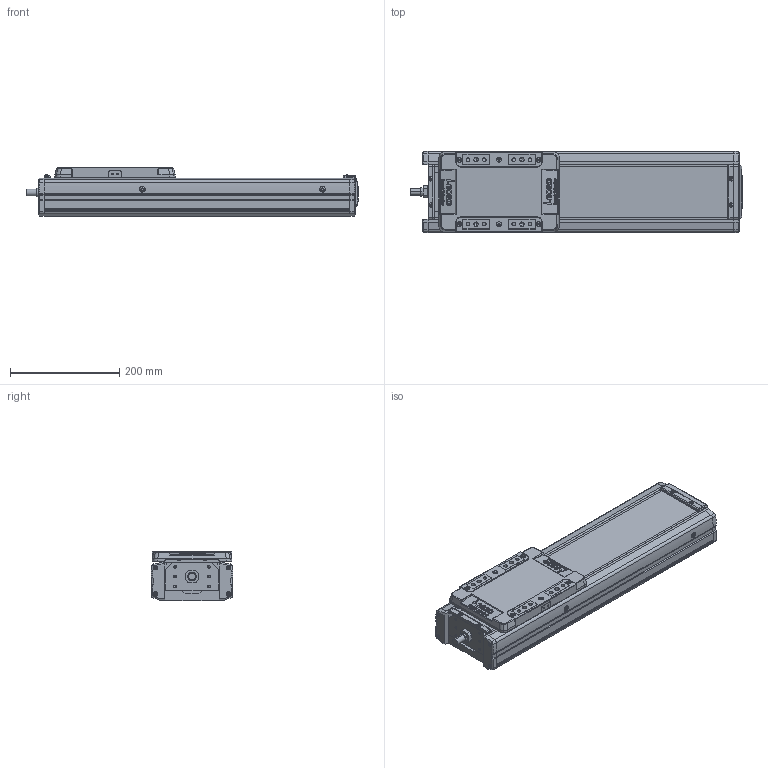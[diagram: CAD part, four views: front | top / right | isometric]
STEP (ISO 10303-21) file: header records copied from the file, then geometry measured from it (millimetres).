
FILE_DESCRIPTION(('STEP AP214'),'1');
FILE_NAME('Z:/Web/3D/SAN150/2013.04 (STP.)/SAN150ㅁㅁ-300.stp','2013-05-08T02:02:54',(' '),(' '),'Spatial InterOp 3D',' ',' ');
FILE_SCHEMA(('automotive_design'));
Length unit declared in the file: millimetre
Products named in the file (35): SLBL-SAN150; SLCV-SAN150; FHCS M4.0 x 8.0; BHCS M4.0 x 10.0; SFX-SAN150; RRCV-SAN150; FRBL-SAN150; Spacer; RN15; FRCV-SAN150; Screw 20; BASE-SAN150-000L ; SUS COVER; 스크루 : Round - M5.0 x 6.0
Bounding box: 608 x 150 x 90 mm (x, y, z)
Volume: 3667032.9 mm3; surface area: 690746.6 mm2
Topology: 35 solids, 35 shells, 1981 faces, 5107 edges, 3264 vertices
Faces by surface type: plane 981, cylinder 701, cone 218, sphere 48, bspline 21, torus 12
Entity records: 78581 total; most frequent: CARTESIAN_POINT 12761, DIRECTION 10782, ORIENTED_EDGE 10022, EDGE_CURVE 5011, AXIS2_PLACEMENT_3D 3848, VERTEX_POINT 3264, LINE 3086, VECTOR 3086
